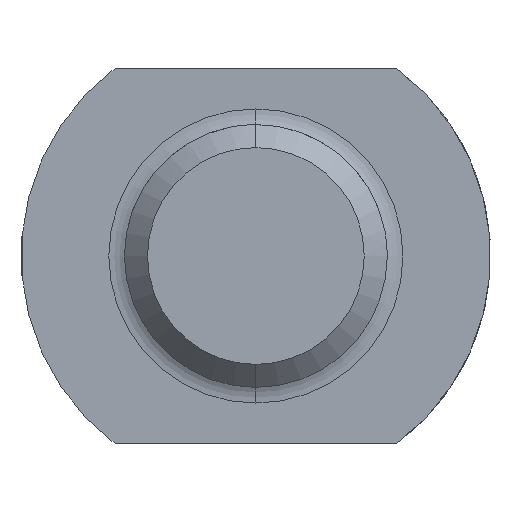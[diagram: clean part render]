
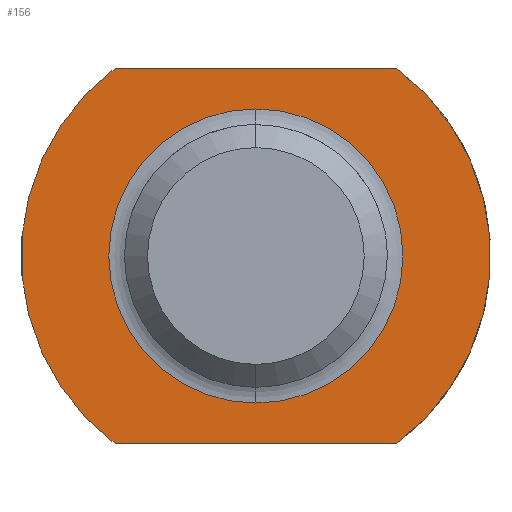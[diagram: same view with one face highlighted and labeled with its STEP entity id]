
A CAD part, left-side view. The second image highlights one B-rep face of the part: STEP entity #156.
In plain terms, the highlighted planar face has unit normal (-1, 0, 0).
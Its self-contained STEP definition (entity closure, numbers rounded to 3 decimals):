
#57=CARTESIAN_POINT('Line Origine',(0.,0.,-10.)) ;
#61=CARTESIAN_POINT('Vertex',(0.,-7.5,-10.)) ;
#63=CARTESIAN_POINT('Vertex',(0.,7.5,-10.)) ;
#92=CARTESIAN_POINT('Axis2P3D Location',(0.,7.833,0.)) ;
#97=CARTESIAN_POINT('Axis2P3D Location',(0.,0.,0.)) ;
#101=CARTESIAN_POINT('Vertex',(0.,7.5,10.)) ;
#104=CARTESIAN_POINT('Axis2P3D Location',(0.,0.,0.)) ;
#108=CARTESIAN_POINT('Vertex',(0.,-7.5,10.)) ;
#111=CARTESIAN_POINT('Line Origine',(0.,0.,10.)) ;
#122=CARTESIAN_POINT('Axis2P3D Location',(0.,0.,0.)) ;
#126=CARTESIAN_POINT('Vertex',(0.,7.833,0.)) ;
#128=CARTESIAN_POINT('Vertex',(0.,0.,7.833)) ;
#131=CARTESIAN_POINT('Axis2P3D Location',(0.,0.,0.)) ;
#135=CARTESIAN_POINT('Vertex',(0.,-7.833,0.)) ;
#138=CARTESIAN_POINT('Axis2P3D Location',(0.,0.,0.)) ;
#142=CARTESIAN_POINT('Vertex',(0.,0.,-7.833)) ;
#145=CARTESIAN_POINT('Axis2P3D Location',(0.,0.,0.)) ;
#58=DIRECTION('Vector Direction',(0.,1.,0.)) ;
#93=DIRECTION('Axis2P3D Direction',(1.,0.,-0.)) ;
#94=DIRECTION('Axis2P3D XDirection',(-0.,0.,-1.)) ;
#98=DIRECTION('Axis2P3D Direction',(1.,0.,-0.)) ;
#105=DIRECTION('Axis2P3D Direction',(1.,0.,-0.)) ;
#112=DIRECTION('Vector Direction',(0.,-1.,0.)) ;
#123=DIRECTION('Axis2P3D Direction',(1.,0.,-0.)) ;
#132=DIRECTION('Axis2P3D Direction',(1.,0.,-0.)) ;
#139=DIRECTION('Axis2P3D Direction',(1.,0.,-0.)) ;
#146=DIRECTION('Axis2P3D Direction',(1.,0.,-0.)) ;
#95=AXIS2_PLACEMENT_3D('Plane Axis2P3D',#92,#93,#94) ;
#99=AXIS2_PLACEMENT_3D('Circle Axis2P3D',#97,#98,$) ;
#106=AXIS2_PLACEMENT_3D('Circle Axis2P3D',#104,#105,$) ;
#124=AXIS2_PLACEMENT_3D('Circle Axis2P3D',#122,#123,$) ;
#133=AXIS2_PLACEMENT_3D('Circle Axis2P3D',#131,#132,$) ;
#140=AXIS2_PLACEMENT_3D('Circle Axis2P3D',#138,#139,$) ;
#147=AXIS2_PLACEMENT_3D('Circle Axis2P3D',#145,#146,$) ;
#117=ORIENTED_EDGE('',*,*,#103,.F.) ;
#118=ORIENTED_EDGE('',*,*,#65,.F.) ;
#119=ORIENTED_EDGE('',*,*,#110,.F.) ;
#120=ORIENTED_EDGE('',*,*,#115,.F.) ;
#151=ORIENTED_EDGE('',*,*,#130,.T.) ;
#152=ORIENTED_EDGE('',*,*,#137,.T.) ;
#153=ORIENTED_EDGE('',*,*,#144,.T.) ;
#154=ORIENTED_EDGE('',*,*,#149,.T.) ;
#155=FACE_BOUND('',#150,.T.) ;
#59=VECTOR('Line Direction',#58,1.) ;
#113=VECTOR('Line Direction',#112,1.) ;
#156=ADVANCED_FACE('AGS3401M14',(#121,#155),#96,.F.) ;
#100=CIRCLE('generated circle',#99,12.5) ;
#107=CIRCLE('generated circle',#106,12.5) ;
#125=CIRCLE('generated circle',#124,7.833) ;
#134=CIRCLE('generated circle',#133,7.833) ;
#141=CIRCLE('generated circle',#140,7.833) ;
#148=CIRCLE('generated circle',#147,7.833) ;
#65=EDGE_CURVE('',#62,#64,#60,.T.) ;
#103=EDGE_CURVE('',#64,#102,#100,.T.) ;
#110=EDGE_CURVE('',#109,#62,#107,.T.) ;
#115=EDGE_CURVE('',#102,#109,#114,.T.) ;
#130=EDGE_CURVE('',#127,#129,#125,.T.) ;
#137=EDGE_CURVE('',#129,#136,#134,.T.) ;
#144=EDGE_CURVE('',#136,#143,#141,.T.) ;
#149=EDGE_CURVE('',#143,#127,#148,.T.) ;
#116=EDGE_LOOP('',(#117,#118,#119,#120)) ;
#150=EDGE_LOOP('',(#151,#152,#153,#154)) ;
#121=FACE_OUTER_BOUND('',#116,.T.) ;
#60=LINE('Line',#57,#59) ;
#114=LINE('Line',#111,#113) ;
#96=PLANE('Plane',#95) ;
#62=VERTEX_POINT('',#61) ;
#64=VERTEX_POINT('',#63) ;
#102=VERTEX_POINT('',#101) ;
#109=VERTEX_POINT('',#108) ;
#127=VERTEX_POINT('',#126) ;
#129=VERTEX_POINT('',#128) ;
#136=VERTEX_POINT('',#135) ;
#143=VERTEX_POINT('',#142) ;
